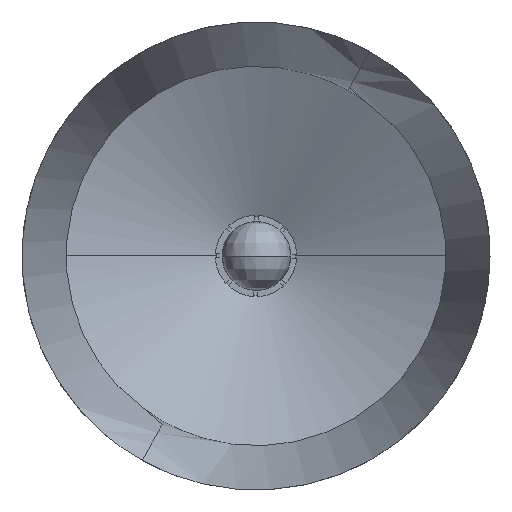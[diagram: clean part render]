
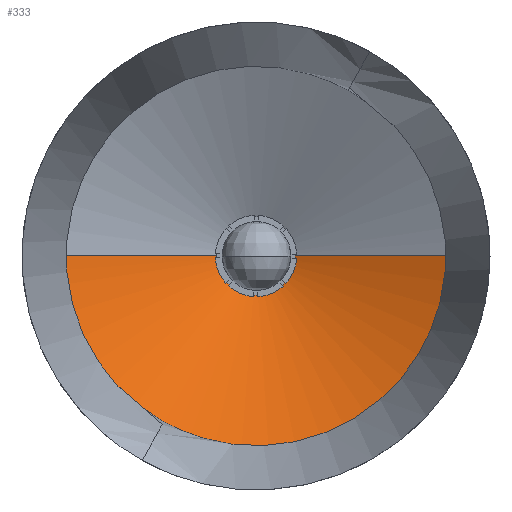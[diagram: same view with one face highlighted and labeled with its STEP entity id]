
A CAD part, front view. The second image highlights one B-rep face of the part: STEP entity #333.
In plain terms, the highlighted free-form (B-spline) face has degree [2, 1] with [5, 2] control points.
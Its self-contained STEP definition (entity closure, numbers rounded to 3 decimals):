
#333=ADVANCED_FACE('',(#779),#7328,.T.);
#779=FACE_OUTER_BOUND('',#1225,.T.);
#1225=EDGE_LOOP('',(#1726,#1727,#1728,#1729,#1730));
#1726=ORIENTED_EDGE('',*,*,#4113,.T.);
#1727=ORIENTED_EDGE('',*,*,#4111,.T.);
#1728=ORIENTED_EDGE('',*,*,#4109,.T.);
#1729=ORIENTED_EDGE('',*,*,#4110,.T.);
#1730=ORIENTED_EDGE('',*,*,#4112,.F.);
#4109=EDGE_CURVE('',#6548,#6549,#5320,.T.);
#4110=EDGE_CURVE('',#6549,#6551,#6058,.T.);
#4111=EDGE_CURVE('',#6547,#6548,#6059,.T.);
#4112=EDGE_CURVE('',#6550,#6551,#5321,.T.);
#4113=EDGE_CURVE('',#6550,#6547,#6060,.T.);
#5320=B_SPLINE_CURVE_WITH_KNOTS('',1,(#8626,#8627),.UNSPECIFIED.,.F.,.F.,
(2,2),(0.,1282.621),.UNSPECIFIED.);
#5321=B_SPLINE_CURVE_WITH_KNOTS('',1,(#8636,#8637),.UNSPECIFIED.,.F.,.F.,
(2,2),(0.,1282.621),.UNSPECIFIED.);
#6058=(
BOUNDED_CURVE()
B_SPLINE_CURVE(2,(#8628,#8629,#8630,#8631,#8632),.UNSPECIFIED.,.F.,.F.)
B_SPLINE_CURVE_WITH_KNOTS((3,2,3),(-219.17,-164.377,
-109.585),.UNSPECIFIED.)
CURVE()
GEOMETRIC_REPRESENTATION_ITEM()
RATIONAL_B_SPLINE_CURVE((1.,0.707,1.,0.707,1.))
REPRESENTATION_ITEM('')
);
#6059=(
BOUNDED_CURVE()
B_SPLINE_CURVE(2,(#8633,#8634,#8635),.UNSPECIFIED.,.F.,.F.)
B_SPLINE_CURVE_WITH_KNOTS((3,3),(182.083,219.17),
 .UNSPECIFIED.)
CURVE()
GEOMETRIC_REPRESENTATION_ITEM()
RATIONAL_B_SPLINE_CURVE((1.,0.862,1.))
REPRESENTATION_ITEM('')
);
#6060=(
BOUNDED_CURVE()
B_SPLINE_CURVE(2,(#8638,#8639,#8640,#8641,#8642),.UNSPECIFIED.,.F.,.F.)
B_SPLINE_CURVE_WITH_KNOTS((3,2,3),(-332.539,-166.27,
0.),.UNSPECIFIED.)
CURVE()
GEOMETRIC_REPRESENTATION_ITEM()
RATIONAL_B_SPLINE_CURVE((1.,0.868,1.,0.868,1.))
REPRESENTATION_ITEM('')
);
#6547=VERTEX_POINT('',#8581);
#6548=VERTEX_POINT('',#8582);
#6549=VERTEX_POINT('',#8583);
#6550=VERTEX_POINT('',#8584);
#6551=VERTEX_POINT('',#8585);
#7328=(
BOUNDED_SURFACE()
B_SPLINE_SURFACE(2,1,((#8566,#8567),(#8568,#8569),(#8570,#8571),(#8572,
#8573),(#8574,#8575)),.UNSPECIFIED.,.F.,.F.,.F.)
B_SPLINE_SURFACE_WITH_KNOTS((3,2,3),(2,2),(109.585,164.377,
219.17),(0.,1282.621),.UNSPECIFIED.)
GEOMETRIC_REPRESENTATION_ITEM()
RATIONAL_B_SPLINE_SURFACE(((1.,1.),(0.707,0.707),
(1.,1.),(0.707,0.707),(1.,1.)))
REPRESENTATION_ITEM('')
SURFACE()
);
#8566=CARTESIAN_POINT('',(204.135,232.311,0.));
#8567=CARTESIAN_POINT('',(5.5,324.936,0.));
#8568=CARTESIAN_POINT('',(204.135,232.311,-204.135));
#8569=CARTESIAN_POINT('',(5.5,324.936,-5.5));
#8570=CARTESIAN_POINT('',(0.,232.311,-204.135));
#8571=CARTESIAN_POINT('',(0.,324.936,-5.5));
#8572=CARTESIAN_POINT('',(-204.135,232.311,-204.135));
#8573=CARTESIAN_POINT('',(-5.5,324.936,-5.5));
#8574=CARTESIAN_POINT('',(-204.135,232.311,0.));
#8575=CARTESIAN_POINT('',(-5.5,324.936,0.));
#8581=CARTESIAN_POINT('',(-99.222,232.311,-178.399));
#8582=CARTESIAN_POINT('',(-204.135,232.311,0.));
#8583=CARTESIAN_POINT('',(-5.5,324.936,0.));
#8584=CARTESIAN_POINT('',(204.135,232.311,0.));
#8585=CARTESIAN_POINT('',(5.5,324.936,0.));
#8626=CARTESIAN_POINT('',(-204.135,232.311,0.));
#8627=CARTESIAN_POINT('',(-5.5,324.936,0.));
#8628=CARTESIAN_POINT('',(-5.5,324.936,0.));
#8629=CARTESIAN_POINT('',(-5.5,324.936,-5.5));
#8630=CARTESIAN_POINT('',(0.,324.936,-5.5));
#8631=CARTESIAN_POINT('',(5.5,324.936,-5.5));
#8632=CARTESIAN_POINT('',(5.5,324.936,0.));
#8633=CARTESIAN_POINT('',(-99.222,232.311,-178.399));
#8634=CARTESIAN_POINT('',(-204.135,232.311,-120.049));
#8635=CARTESIAN_POINT('',(-204.135,232.311,0.));
#8636=CARTESIAN_POINT('',(204.135,232.311,0.));
#8637=CARTESIAN_POINT('',(5.5,324.936,0.));
#8638=CARTESIAN_POINT('',(204.135,232.311,0.));
#8639=CARTESIAN_POINT('',(204.135,232.311,-116.77));
#8640=CARTESIAN_POINT('',(103.481,232.311,-175.963));
#8641=CARTESIAN_POINT('',(2.827,232.311,-235.156));
#8642=CARTESIAN_POINT('',(-99.222,232.311,-178.399));
